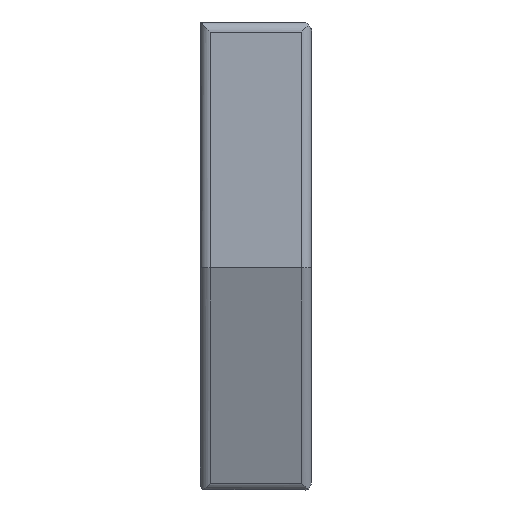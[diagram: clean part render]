
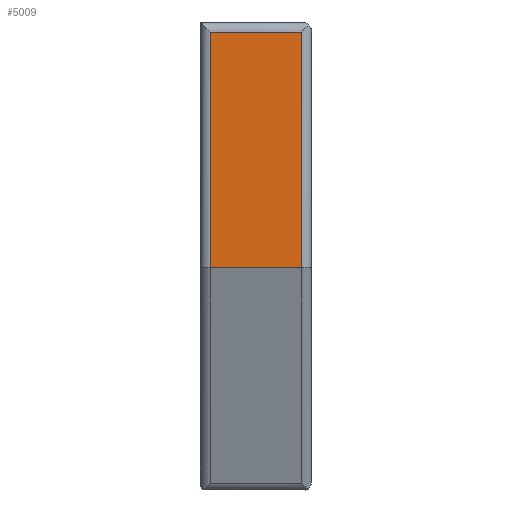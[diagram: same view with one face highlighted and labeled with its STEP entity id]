
A CAD part, front view. The second image highlights one B-rep face of the part: STEP entity #5009.
In plain terms, the highlighted planar face has unit normal (0, -1, 0).
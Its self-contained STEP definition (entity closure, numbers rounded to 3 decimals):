
#308=PLANE('',#5618);
#578=FACE_OUTER_BOUND('',#886,.T.);
#886=EDGE_LOOP('',(#4314,#4315,#4316,#4317));
#1194=LINE('',#8601,#1560);
#1244=LINE('',#8955,#1610);
#1255=LINE('',#8983,#1621);
#1308=LINE('',#9635,#1674);
#1560=VECTOR('',#6649,1000.);
#1610=VECTOR('',#6855,1000.);
#1621=VECTOR('',#6890,1000.);
#1674=VECTOR('',#7123,1000.);
#2254=VERTEX_POINT('',#8595);
#2256=VERTEX_POINT('',#8599);
#2323=VERTEX_POINT('',#8935);
#2330=VERTEX_POINT('',#8953);
#2872=EDGE_CURVE('',#2256,#2254,#1194,.T.);
#2986=EDGE_CURVE('',#2330,#2323,#1244,.T.);
#3002=EDGE_CURVE('',#2254,#2330,#1255,.T.);
#3101=EDGE_CURVE('',#2323,#2256,#1308,.T.);
#4314=ORIENTED_EDGE('',*,*,#3002,.F.);
#4315=ORIENTED_EDGE('',*,*,#2872,.F.);
#4316=ORIENTED_EDGE('',*,*,#3101,.F.);
#4317=ORIENTED_EDGE('',*,*,#2986,.F.);
#5009=ADVANCED_FACE('',(#578),#308,.F.);
#5618=AXIS2_PLACEMENT_3D('',#9634,#7121,#7122);
#6649=DIRECTION('',(0.,0.,1.));
#6855=DIRECTION('',(0.,0.,-1.));
#6890=DIRECTION('',(1.,0.,0.));
#7121=DIRECTION('center_axis',(0.,1.,0.));
#7122=DIRECTION('ref_axis',(0.,0.,1.));
#7123=DIRECTION('',(-1.,0.,0.));
#8595=CARTESIAN_POINT('',(18.521,-93.219,-4.5));
#8599=CARTESIAN_POINT('',(18.521,-93.219,-39.448));
#8601=CARTESIAN_POINT('',(18.521,-93.219,-22.06));
#8935=CARTESIAN_POINT('',(32.021,-93.219,-39.448));
#8953=CARTESIAN_POINT('',(32.021,-93.219,-4.5));
#8955=CARTESIAN_POINT('',(32.021,-93.219,-18.837));
#8983=CARTESIAN_POINT('',(24.346,-93.219,-4.5));
#9634=CARTESIAN_POINT('Origin',(24.521,-93.219,-23.864));
#9635=CARTESIAN_POINT('',(27.374,-93.219,-39.448));
